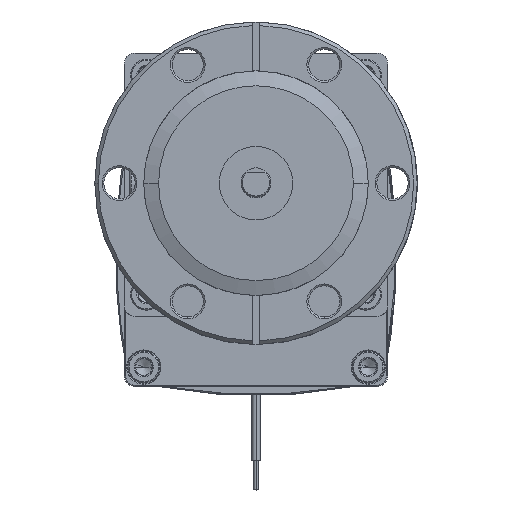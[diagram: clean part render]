
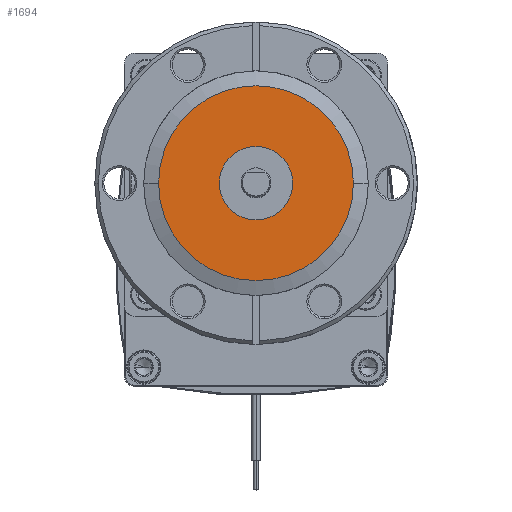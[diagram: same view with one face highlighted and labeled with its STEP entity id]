
A CAD part, top view. The second image highlights one B-rep face of the part: STEP entity #1694.
In plain terms, the highlighted planar face has unit normal (0, 0, 1).
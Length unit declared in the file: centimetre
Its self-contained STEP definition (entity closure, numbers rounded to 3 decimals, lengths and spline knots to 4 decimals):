
#1022 = VERTEX_POINT ( 'NONE', #10391 ) ;
#1694 = ADVANCED_FACE ( 'NONE', ( #56313, #56107 ), #27611, .T. ) ;
#1780 = VERTEX_POINT ( 'NONE', #58294 ) ;
#1787 = VERTEX_POINT ( 'NONE', #58303 ) ;
#8301 = CIRCLE ( 'NONE', #17113, 0.7899 ) ;
#8789 = CIRCLE ( 'NONE', #17240, 2.0955 ) ;
#10391 = CARTESIAN_POINT ( 'NONE',  ( 0.7899, 0., -0.1295 ) ) ;
#16759 = AXIS2_PLACEMENT_3D ( 'NONE', #19811, #19812, #19813 ) ;
#17113 = AXIS2_PLACEMENT_3D ( 'NONE', #35429, #35430, #35431 ) ;
#17240 = AXIS2_PLACEMENT_3D ( 'NONE', #36318, #36319, #36320 ) ;
#17554 = AXIS2_PLACEMENT_3D ( 'NONE', #43793, #43794, #43795 ) ;
#18557 = CARTESIAN_POINT ( 'NONE',  ( -0.7899, 0., -0.1295 ) ) ;
#19811 = CARTESIAN_POINT ( 'NONE',  ( 0., 0., -0.1295 ) ) ;
#19812 = DIRECTION ( 'NONE',  ( 0., 0., -1. ) ) ;
#19813 = DIRECTION ( 'NONE',  ( 1., 0., 0. ) ) ;
#27607 = CARTESIAN_POINT ( 'NONE',  ( 0., 2.0955, -0.1295 ) ) ;
#27611 = PLANE ( 'NONE',  #40681 ) ;
#27612 = DIRECTION ( 'NONE',  ( 0., 0., 1. ) ) ;
#27613 = DIRECTION ( 'NONE',  ( 1., 0., 0. ) ) ;
#29987 = EDGE_LOOP ( 'NONE', ( #37049, #37022 ) ) ;
#35429 = CARTESIAN_POINT ( 'NONE',  ( 0., 0., -0.1295 ) ) ;
#35430 = DIRECTION ( 'NONE',  ( 0., 0., -1. ) ) ;
#35431 = DIRECTION ( 'NONE',  ( 1., 0., 0. ) ) ;
#36318 = CARTESIAN_POINT ( 'NONE',  ( 0., 0., -0.1295 ) ) ;
#36319 = DIRECTION ( 'NONE',  ( 0., 0., 1. ) ) ;
#36320 = DIRECTION ( 'NONE',  ( -1., 0., 0. ) ) ;
#36545 = ORIENTED_EDGE ( 'NONE', *, *, #58920, .T. ) ;
#37022 = ORIENTED_EDGE ( 'NONE', *, *, #59129, .T. ) ;
#37049 = ORIENTED_EDGE ( 'NONE', *, *, #71268, .T. ) ;
#37112 = ORIENTED_EDGE ( 'NONE', *, *, #56989, .T. ) ;
#40681 = AXIS2_PLACEMENT_3D ( 'NONE', #27607, #27612, #27613 ) ;
#41602 = EDGE_LOOP ( 'NONE', ( #37112, #36545 ) ) ;
#43248 = CIRCLE ( 'NONE', #17554, 2.0955 ) ;
#43793 = CARTESIAN_POINT ( 'NONE',  ( 0., 0., -0.1295 ) ) ;
#43794 = DIRECTION ( 'NONE',  ( 0., 0., 1. ) ) ;
#43795 = DIRECTION ( 'NONE',  ( -1., 0., 0. ) ) ;
#53338 = CIRCLE ( 'NONE', #16759, 0.7899 ) ;
#55896 = VERTEX_POINT ( 'NONE', #18557 ) ;
#56107 = FACE_BOUND ( 'NONE', #41602, .T. ) ;
#56313 = FACE_OUTER_BOUND ( 'NONE', #29987, .T. ) ;
#56989 = EDGE_CURVE ( 'NONE', #1022, #55896, #53338, .T. ) ;
#58294 = CARTESIAN_POINT ( 'NONE',  ( 2.0955, 0., -0.1295 ) ) ;
#58303 = CARTESIAN_POINT ( 'NONE',  ( -2.0955, 0., -0.1295 ) ) ;
#58920 = EDGE_CURVE ( 'NONE', #55896, #1022, #8301, .T. ) ;
#59129 = EDGE_CURVE ( 'NONE', #1780, #1787, #8789, .T. ) ;
#71268 = EDGE_CURVE ( 'NONE', #1787, #1780, #43248, .T. ) ;
